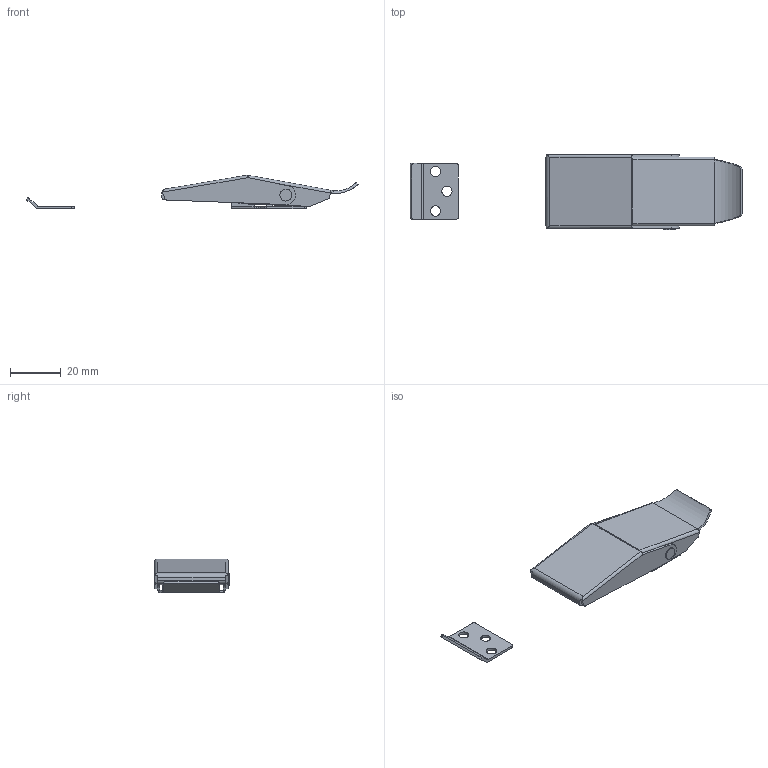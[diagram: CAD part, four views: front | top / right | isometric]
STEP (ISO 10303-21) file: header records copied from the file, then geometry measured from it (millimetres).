
FILE_DESCRIPTION(/* description */ (''),/* implementation_level */ '2;1');
FILE_NAME(/* name */ '\\NAS\db20\C-M11\DR_C-M11.stp',/* time_stamp */ '2018-03-01T10:40:03+09:00',/* author */ ('user'),/* organization */ (''),/* preprocessor_version */ 'ST-DEVELOPER v15.6',/* originating_system */ 'Autodesk Inventor 2015',/* authorisation */ '');
FILE_SCHEMA (('AUTOMOTIVE_DESIGN { 1 0 10303 214 3 1 1 }'));
Length unit declared in the file: millimetre
Products named in the file (5): DR_C-M11-BR; DR_C-M11-H; DR_C-M11-H2; DR_C-M11-P; DR_C-M11
Bounding box: 130.35 x 29.6 x 13.26 mm (x, y, z)
Volume: 5229.3 mm3; surface area: 11010.9 mm2
Topology: 4 solids, 4 shells, 170 faces, 447 edges, 287 vertices
Faces by surface type: plane 92, cylinder 73, cone 3, torus 2
Full cylindrical faces by diameter (mm): 2.5 x1, 3 x5, 4 x8, 4.7 x1
Entity records: 5373 total; most frequent: CARTESIAN_POINT 1005, DIRECTION 906, ORIENTED_EDGE 848, EDGE_CURVE 424, AXIS2_PLACEMENT_3D 319, VERTEX_POINT 284, LINE 268, VECTOR 268
